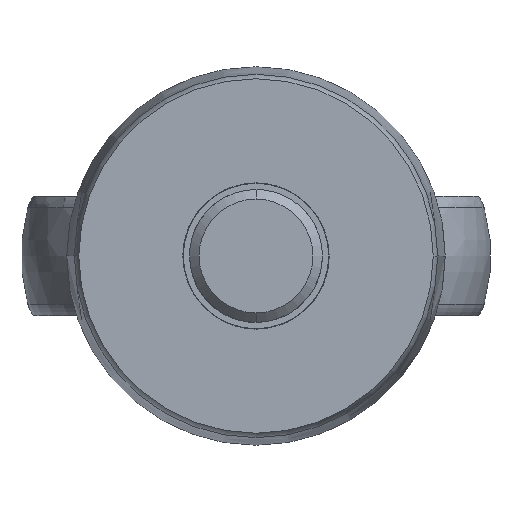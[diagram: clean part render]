
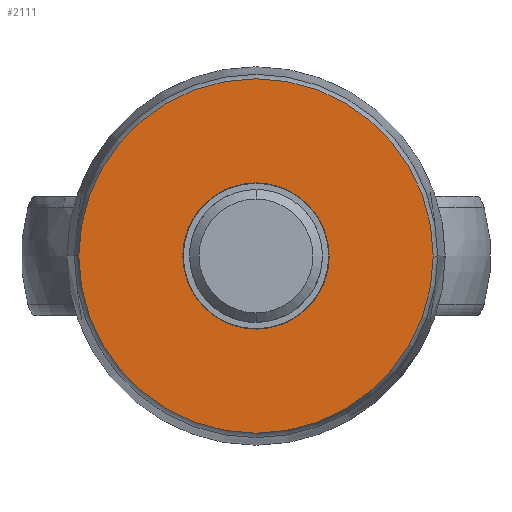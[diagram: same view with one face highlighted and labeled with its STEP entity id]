
A CAD part, front view. The second image highlights one B-rep face of the part: STEP entity #2111.
In plain terms, the highlighted planar face has unit normal (0, -1, 0).
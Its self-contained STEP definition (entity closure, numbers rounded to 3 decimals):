
#1981=CARTESIAN_POINT('Vertex',(-40.,0.,0.)) ;
#1988=CARTESIAN_POINT('Vertex',(40.,0.,0.)) ;
#1991=CARTESIAN_POINT('Axis2P3D Location',(0.,0.,0.)) ;
#2008=CARTESIAN_POINT('Axis2P3D Location',(0.,0.,0.)) ;
#2020=CARTESIAN_POINT('Axis2P3D Location',(40.,0.,0.)) ;
#2030=CARTESIAN_POINT('Control Point',(0.,0.,-16.5)) ;
#2031=CARTESIAN_POINT('Control Point',(1.184,0.,-16.5)) ;
#2032=CARTESIAN_POINT('Control Point',(2.369,0.,-16.394)) ;
#2033=CARTESIAN_POINT('Control Point',(3.54,0.,-16.181)) ;
#2034=CARTESIAN_POINT('Control Point',(6.227,0.,-15.439)) ;
#2035=CARTESIAN_POINT('Control Point',(8.709,0.,-14.151)) ;
#2036=CARTESIAN_POINT('Control Point',(10.036,0.,-13.243)) ;
#2037=CARTESIAN_POINT('Control Point',(12.444,0.,-11.125)) ;
#2038=CARTESIAN_POINT('Control Point',(14.28,0.,-8.496)) ;
#2039=CARTESIAN_POINT('Control Point',(15.034,0.,-7.076)) ;
#2040=CARTESIAN_POINT('Control Point',(15.904,0.,-4.813)) ;
#2041=CARTESIAN_POINT('Control Point',(16.349,0.,-2.442)) ;
#2042=CARTESIAN_POINT('Control Point',(16.45,0.,-1.631)) ;
#2043=CARTESIAN_POINT('Control Point',(16.5,0.,-0.815)) ;
#2044=CARTESIAN_POINT('Control Point',(16.5,0.,0.)) ;
#2045=CARTESIAN_POINT('Vertex',(0.,0.,-16.5)) ;
#2047=CARTESIAN_POINT('Vertex',(16.5,0.,0.)) ;
#2051=CARTESIAN_POINT('Control Point',(-16.5,0.,0.)) ;
#2052=CARTESIAN_POINT('Control Point',(-16.5,0.,-1.592)) ;
#2053=CARTESIAN_POINT('Control Point',(-16.308,0.,-3.184)) ;
#2054=CARTESIAN_POINT('Control Point',(-15.924,0.,-4.745)) ;
#2055=CARTESIAN_POINT('Control Point',(-14.787,0.,-7.744)) ;
#2056=CARTESIAN_POINT('Control Point',(-12.97,0.,-10.386)) ;
#2057=CARTESIAN_POINT('Control Point',(-11.905,0.,-11.591)) ;
#2058=CARTESIAN_POINT('Control Point',(-9.507,0.,-13.72)) ;
#2059=CARTESIAN_POINT('Control Point',(-6.671,0.,-15.218)) ;
#2060=CARTESIAN_POINT('Control Point',(-5.169,0.,-15.791)) ;
#2061=CARTESIAN_POINT('Control Point',(-3.215,0.,-16.277)) ;
#2062=CARTESIAN_POINT('Control Point',(-1.223,0.,-16.462)) ;
#2063=CARTESIAN_POINT('Control Point',(-0.815,0.,-16.487)) ;
#2064=CARTESIAN_POINT('Control Point',(-0.408,0.,-16.5)) ;
#2065=CARTESIAN_POINT('Control Point',(0.,0.,-16.5)) ;
#2066=CARTESIAN_POINT('Vertex',(-16.5,0.,0.)) ;
#2070=CARTESIAN_POINT('Control Point',(0.,0.,16.5)) ;
#2071=CARTESIAN_POINT('Control Point',(-1.184,0.,16.5)) ;
#2072=CARTESIAN_POINT('Control Point',(-2.369,0.,16.394)) ;
#2073=CARTESIAN_POINT('Control Point',(-3.54,0.,16.181)) ;
#2074=CARTESIAN_POINT('Control Point',(-6.227,0.,15.439)) ;
#2075=CARTESIAN_POINT('Control Point',(-8.709,0.,14.151)) ;
#2076=CARTESIAN_POINT('Control Point',(-10.036,0.,13.243)) ;
#2077=CARTESIAN_POINT('Control Point',(-12.444,0.,11.125)) ;
#2078=CARTESIAN_POINT('Control Point',(-14.28,0.,8.496)) ;
#2079=CARTESIAN_POINT('Control Point',(-15.034,0.,7.076)) ;
#2080=CARTESIAN_POINT('Control Point',(-15.904,0.,4.813)) ;
#2081=CARTESIAN_POINT('Control Point',(-16.349,0.,2.442)) ;
#2082=CARTESIAN_POINT('Control Point',(-16.45,0.,1.631)) ;
#2083=CARTESIAN_POINT('Control Point',(-16.5,0.,0.815)) ;
#2084=CARTESIAN_POINT('Control Point',(-16.5,0.,0.)) ;
#2085=CARTESIAN_POINT('Vertex',(0.,0.,16.5)) ;
#2089=CARTESIAN_POINT('Control Point',(16.5,0.,0.)) ;
#2090=CARTESIAN_POINT('Control Point',(16.5,0.,1.592)) ;
#2091=CARTESIAN_POINT('Control Point',(16.308,0.,3.184)) ;
#2092=CARTESIAN_POINT('Control Point',(15.924,0.,4.745)) ;
#2093=CARTESIAN_POINT('Control Point',(14.787,0.,7.744)) ;
#2094=CARTESIAN_POINT('Control Point',(12.97,0.,10.386)) ;
#2095=CARTESIAN_POINT('Control Point',(11.905,0.,11.591)) ;
#2096=CARTESIAN_POINT('Control Point',(9.507,0.,13.72)) ;
#2097=CARTESIAN_POINT('Control Point',(6.671,0.,15.218)) ;
#2098=CARTESIAN_POINT('Control Point',(5.169,0.,15.791)) ;
#2099=CARTESIAN_POINT('Control Point',(3.215,0.,16.277)) ;
#2100=CARTESIAN_POINT('Control Point',(1.223,0.,16.462)) ;
#2101=CARTESIAN_POINT('Control Point',(0.815,0.,16.487)) ;
#2102=CARTESIAN_POINT('Control Point',(0.408,0.,16.5)) ;
#2103=CARTESIAN_POINT('Control Point',(0.,0.,16.5)) ;
#1992=DIRECTION('Axis2P3D Direction',(0.,1.,0.)) ;
#2009=DIRECTION('Axis2P3D Direction',(0.,1.,0.)) ;
#2021=DIRECTION('Axis2P3D Direction',(0.,1.,0.)) ;
#2022=DIRECTION('Axis2P3D XDirection',(-1.,0.,0.)) ;
#1993=AXIS2_PLACEMENT_3D('Circle Axis2P3D',#1991,#1992,$) ;
#2010=AXIS2_PLACEMENT_3D('Circle Axis2P3D',#2008,#2009,$) ;
#2023=AXIS2_PLACEMENT_3D('Plane Axis2P3D',#2020,#2021,#2022) ;
#2026=ORIENTED_EDGE('',*,*,#2012,.T.) ;
#2027=ORIENTED_EDGE('',*,*,#1995,.T.) ;
#2106=ORIENTED_EDGE('',*,*,#2049,.F.) ;
#2107=ORIENTED_EDGE('',*,*,#2068,.F.) ;
#2108=ORIENTED_EDGE('',*,*,#2087,.F.) ;
#2109=ORIENTED_EDGE('',*,*,#2104,.F.) ;
#2110=FACE_BOUND('',#2105,.T.) ;
#2111=ADVANCED_FACE('_C817XC30',(#2028,#2110),#2024,.F.) ;
#2029=B_SPLINE_CURVE_WITH_KNOTS('',5,(#2030,#2031,#2032,#2033,#2034,#2035,#2036,#2037,#2038,#2039,#2040,#2041,#2042,#2043,#2044),.UNSPECIFIED.,.F.,.U.,(6,3,3,3,6),(36.653,45.028,56.284,67.541,73.307),.UNSPECIFIED.) ;
#2050=B_SPLINE_CURVE_WITH_KNOTS('',5,(#2051,#2052,#2053,#2054,#2055,#2056,#2057,#2058,#2059,#2060,#2061,#2062,#2063,#2064,#2065),.UNSPECIFIED.,.F.,.U.,(6,3,3,3,6),(0.,11.257,22.514,33.771,36.653),.UNSPECIFIED.) ;
#2069=B_SPLINE_CURVE_WITH_KNOTS('',5,(#2070,#2071,#2072,#2073,#2074,#2075,#2076,#2077,#2078,#2079,#2080,#2081,#2082,#2083,#2084),.UNSPECIFIED.,.F.,.U.,(6,3,3,3,6),(36.653,45.028,56.284,67.541,73.307),.UNSPECIFIED.) ;
#2088=B_SPLINE_CURVE_WITH_KNOTS('',5,(#2089,#2090,#2091,#2092,#2093,#2094,#2095,#2096,#2097,#2098,#2099,#2100,#2101,#2102,#2103),.UNSPECIFIED.,.F.,.U.,(6,3,3,3,6),(0.,11.257,22.514,33.771,36.653),.UNSPECIFIED.) ;
#1994=CIRCLE('generated circle',#1993,40.) ;
#2011=CIRCLE('generated circle',#2010,40.) ;
#1995=EDGE_CURVE('',#1982,#1989,#1994,.F.) ;
#2012=EDGE_CURVE('',#1989,#1982,#2011,.F.) ;
#2049=EDGE_CURVE('',#2046,#2048,#2029,.T.) ;
#2068=EDGE_CURVE('',#2067,#2046,#2050,.T.) ;
#2087=EDGE_CURVE('',#2086,#2067,#2069,.T.) ;
#2104=EDGE_CURVE('',#2048,#2086,#2088,.T.) ;
#2025=EDGE_LOOP('',(#2026,#2027)) ;
#2105=EDGE_LOOP('',(#2106,#2107,#2108,#2109)) ;
#2028=FACE_OUTER_BOUND('',#2025,.T.) ;
#2024=PLANE('Plane',#2023) ;
#1982=VERTEX_POINT('',#1981) ;
#1989=VERTEX_POINT('',#1988) ;
#2046=VERTEX_POINT('',#2045) ;
#2048=VERTEX_POINT('',#2047) ;
#2067=VERTEX_POINT('',#2066) ;
#2086=VERTEX_POINT('',#2085) ;
